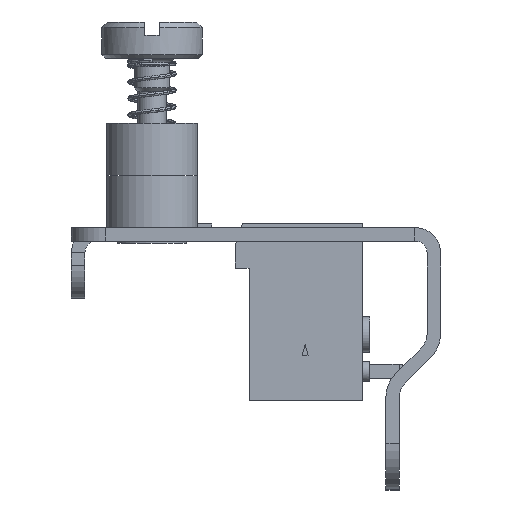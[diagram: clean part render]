
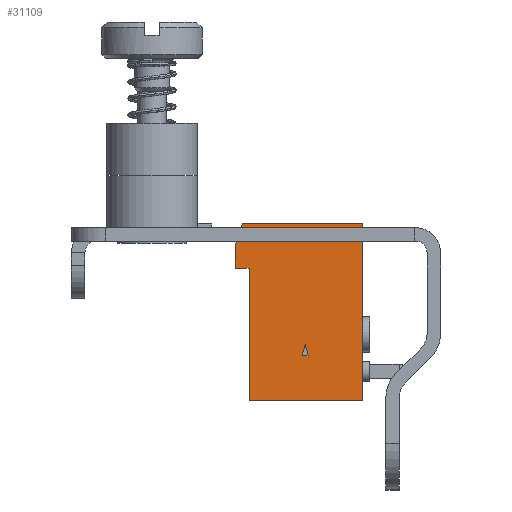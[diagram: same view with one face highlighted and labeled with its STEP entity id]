
A CAD part, left-side view. The second image highlights one B-rep face of the part: STEP entity #31109.
In plain terms, the highlighted planar face has unit normal (-1, 0, 0) as drawn and (0, 0, 1) by its records, which use the part's own axes.
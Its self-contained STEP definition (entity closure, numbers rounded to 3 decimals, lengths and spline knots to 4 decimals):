
#1886=FACE_BOUND('',#5278,.T.);
#3415=FACE_OUTER_BOUND('',#5277,.T.);
#5277=EDGE_LOOP('',(#25177,#25178,#25179,#25180,#25181,#25182,#25183));
#5278=EDGE_LOOP('',(#25184,#25185,#25186));
#8208=LINE('',#52467,#11618);
#8211=LINE('',#52473,#11621);
#8213=LINE('',#52476,#11623);
#8214=LINE('',#52481,#11624);
#8215=LINE('',#52483,#11625);
#8216=LINE('',#52485,#11626);
#8217=LINE('',#52487,#11627);
#8218=LINE('',#52489,#11628);
#8219=LINE('',#52491,#11629);
#8220=LINE('',#52492,#11630);
#11618=VECTOR('',#38392,0.0394);
#11621=VECTOR('',#38397,0.0394);
#11623=VECTOR('',#38401,0.0394);
#11624=VECTOR('',#38406,0.0394);
#11625=VECTOR('',#38407,0.0394);
#11626=VECTOR('',#38408,0.0394);
#11627=VECTOR('',#38409,0.0394);
#11628=VECTOR('',#38410,0.0394);
#11629=VECTOR('',#38411,0.0394);
#11630=VECTOR('',#38412,0.0394);
#14685=VERTEX_POINT('',#52461);
#14687=VERTEX_POINT('',#52465);
#14689=VERTEX_POINT('',#52471);
#14690=VERTEX_POINT('',#52479);
#14691=VERTEX_POINT('',#52480);
#14692=VERTEX_POINT('',#52482);
#14693=VERTEX_POINT('',#52484);
#14694=VERTEX_POINT('',#52486);
#14695=VERTEX_POINT('',#52488);
#14696=VERTEX_POINT('',#52490);
#18301=EDGE_CURVE('',#14687,#14685,#8208,.T.);
#18304=EDGE_CURVE('',#14689,#14687,#8211,.T.);
#18306=EDGE_CURVE('',#14685,#14689,#8213,.T.);
#18307=EDGE_CURVE('',#14690,#14691,#8214,.T.);
#18308=EDGE_CURVE('',#14692,#14691,#8215,.T.);
#18309=EDGE_CURVE('',#14693,#14692,#8216,.T.);
#18310=EDGE_CURVE('',#14694,#14693,#8217,.T.);
#18311=EDGE_CURVE('',#14694,#14695,#8218,.T.);
#18312=EDGE_CURVE('',#14696,#14695,#8219,.T.);
#18313=EDGE_CURVE('',#14696,#14690,#8220,.T.);
#25177=ORIENTED_EDGE('',*,*,#18307,.T.);
#25178=ORIENTED_EDGE('',*,*,#18308,.F.);
#25179=ORIENTED_EDGE('',*,*,#18309,.F.);
#25180=ORIENTED_EDGE('',*,*,#18310,.F.);
#25181=ORIENTED_EDGE('',*,*,#18311,.T.);
#25182=ORIENTED_EDGE('',*,*,#18312,.F.);
#25183=ORIENTED_EDGE('',*,*,#18313,.T.);
#25184=ORIENTED_EDGE('',*,*,#18304,.F.);
#25185=ORIENTED_EDGE('',*,*,#18306,.F.);
#25186=ORIENTED_EDGE('',*,*,#18301,.F.);
#29362=PLANE('',#33137);
#31109=ADVANCED_FACE('',(#3415,#1886),#29362,.T.);
#33137=AXIS2_PLACEMENT_3D('',#52478,#38404,#38405);
#38392=DIRECTION('',(0.,-1.,0.));
#38397=DIRECTION('',(-0.966,0.259,0.));
#38401=DIRECTION('',(0.966,0.259,0.));
#38404=DIRECTION('center_axis',(0.,0.,1.));
#38405=DIRECTION('ref_axis',(1.,0.,0.));
#38406=DIRECTION('',(0.,1.,0.));
#38407=DIRECTION('',(0.94,-0.342,0.));
#38408=DIRECTION('',(1.,0.,0.));
#38409=DIRECTION('',(0.,1.,0.));
#38410=DIRECTION('',(-1.,0.,0.));
#38411=DIRECTION('',(0.,1.,0.));
#38412=DIRECTION('',(1.,0.,0.));
#52461=CARTESIAN_POINT('',(0.5138,0.4988,1.5));
#52465=CARTESIAN_POINT('',(0.5138,0.5146,1.5));
#52467=CARTESIAN_POINT('',(0.5138,-1.1328,1.5));
#52471=CARTESIAN_POINT('',(0.5433,0.5067,1.5));
#52473=CARTESIAN_POINT('',(-1.0483,0.9332,1.5));
#52476=CARTESIAN_POINT('',(-1.0483,0.0802,1.5));
#52478=CARTESIAN_POINT('Origin',(0.7991,0.3766,1.5));
#52479=CARTESIAN_POINT('',(0.8661,0.3543,1.5));
#52480=CARTESIAN_POINT('',(0.8661,0.6732,1.5));
#52481=CARTESIAN_POINT('',(0.8661,-1.1328,1.5));
#52482=CARTESIAN_POINT('',(0.8121,0.6929,1.5));
#52483=CARTESIAN_POINT('',(-1.0483,1.37,1.5));
#52484=CARTESIAN_POINT('',(0.748,0.6929,1.5));
#52485=CARTESIAN_POINT('',(-1.0483,0.6929,1.5));
#52486=CARTESIAN_POINT('',(0.748,0.6563,1.5));
#52487=CARTESIAN_POINT('',(0.748,-1.1328,1.5));
#52488=CARTESIAN_POINT('',(0.3937,0.6563,1.5));
#52489=CARTESIAN_POINT('',(-1.0483,0.6563,1.5));
#52490=CARTESIAN_POINT('',(0.3937,0.3543,1.5));
#52491=CARTESIAN_POINT('',(0.3937,-1.1328,1.5));
#52492=CARTESIAN_POINT('',(-1.0483,0.3543,1.5));
